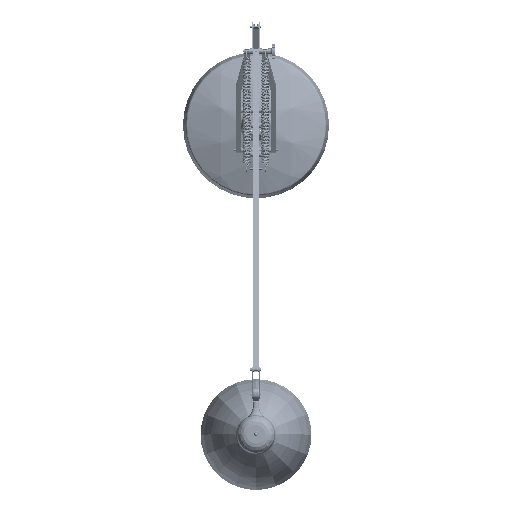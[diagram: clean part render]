
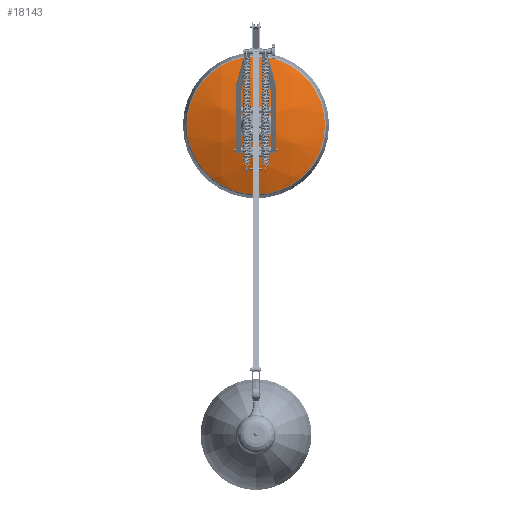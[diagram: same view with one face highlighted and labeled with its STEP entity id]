
A CAD part, top view. The second image highlights one B-rep face of the part: STEP entity #18143.
In plain terms, the highlighted spherical face has radius 594.922 mm.
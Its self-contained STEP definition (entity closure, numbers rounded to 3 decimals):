
#19=SPHERICAL_SURFACE('',#19349,594.922);
#142=FACE_BOUND('',#5085,.T.);
#4046=FACE_OUTER_BOUND('',#5084,.T.);
#5084=EDGE_LOOP('',(#12868,#12869));
#5085=EDGE_LOOP('',(#12870,#12871));
#6240=CIRCLE('',#19346,254.855);
#6241=CIRCLE('',#19347,254.855);
#6243=CIRCLE('',#19350,63.61);
#6244=CIRCLE('',#19351,63.61);
#7622=VERTEX_POINT('',#41530);
#7623=VERTEX_POINT('',#41531);
#7624=VERTEX_POINT('',#41536);
#7625=VERTEX_POINT('',#41537);
#9635=EDGE_CURVE('',#7622,#7623,#6240,.T.);
#9636=EDGE_CURVE('',#7623,#7622,#6241,.T.);
#9638=EDGE_CURVE('',#7624,#7625,#6243,.T.);
#9639=EDGE_CURVE('',#7625,#7624,#6244,.T.);
#12868=ORIENTED_EDGE('',*,*,#9635,.T.);
#12869=ORIENTED_EDGE('',*,*,#9636,.T.);
#12870=ORIENTED_EDGE('',*,*,#9638,.F.);
#12871=ORIENTED_EDGE('',*,*,#9639,.F.);
#18143=ADVANCED_FACE('',(#4046,#142),#19,.T.);
#19346=AXIS2_PLACEMENT_3D('',#41532,#22161,#22162);
#19347=AXIS2_PLACEMENT_3D('',#41533,#22163,#22164);
#19349=AXIS2_PLACEMENT_3D('',#41535,#22167,#22168);
#19350=AXIS2_PLACEMENT_3D('',#41538,#22169,#22170);
#19351=AXIS2_PLACEMENT_3D('',#41539,#22171,#22172);
#22161=DIRECTION('center_axis',(0.,0.,1.));
#22162=DIRECTION('ref_axis',(0.,1.,0.));
#22163=DIRECTION('center_axis',(0.,0.,1.));
#22164=DIRECTION('ref_axis',(0.,1.,0.));
#22167=DIRECTION('center_axis',(1.,0.,0.));
#22168=DIRECTION('ref_axis',(0.,1.,0.));
#22169=DIRECTION('center_axis',(0.,0.,1.));
#22170=DIRECTION('ref_axis',(0.,1.,0.));
#22171=DIRECTION('center_axis',(0.,0.,1.));
#22172=DIRECTION('ref_axis',(0.,1.,0.));
#41530=CARTESIAN_POINT('',(0.,-254.855,63.132));
#41531=CARTESIAN_POINT('',(-254.855,0.,63.132));
#41532=CARTESIAN_POINT('Origin',(0.,0.,
63.132));
#41533=CARTESIAN_POINT('Origin',(0.,0.,
63.132));
#41535=CARTESIAN_POINT('Origin',(0.,0.,
-474.437));
#41536=CARTESIAN_POINT('',(0.,-63.61,117.075));
#41537=CARTESIAN_POINT('',(-63.61,0.,117.075));
#41538=CARTESIAN_POINT('Origin',(0.,0.,
117.075));
#41539=CARTESIAN_POINT('Origin',(0.,0.,
117.075));
